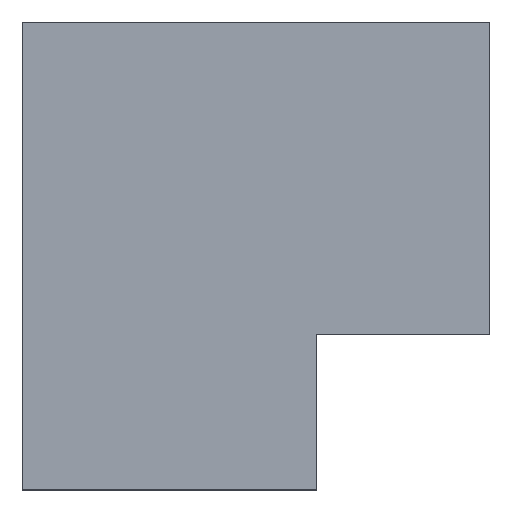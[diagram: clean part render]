
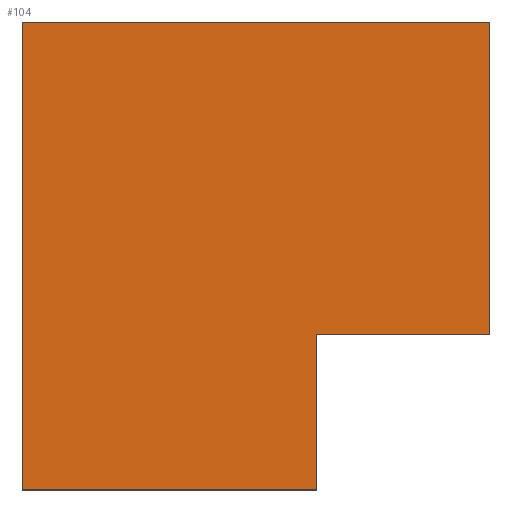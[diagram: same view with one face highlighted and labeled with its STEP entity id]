
A CAD part, top view. The second image highlights one B-rep face of the part: STEP entity #104.
In plain terms, the highlighted planar face has unit normal (0, 0, 1).
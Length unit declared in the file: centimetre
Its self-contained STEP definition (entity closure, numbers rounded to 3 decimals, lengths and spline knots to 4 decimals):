
#2 = CARTESIAN_POINT ( 'NONE',  ( 0., 0., 1000. ) ) ;
#7 = VECTOR ( 'NONE', #449, 100. ) ;
#13 = FACE_OUTER_BOUND ( 'NONE', #613, .T. ) ;
#14 = VERTEX_POINT ( 'NONE', #579 ) ;
#17 = LINE ( 'NONE', #559, #7 ) ;
#33 = EDGE_CURVE ( 'NONE', #14, #549, #617, .T. ) ;
#58 = DIRECTION ( 'NONE',  ( 1., 0., 0. ) ) ;
#91 = DIRECTION ( 'NONE',  ( -1., 0., 0. ) ) ;
#93 = AXIS2_PLACEMENT_3D ( 'NONE', #244, #432, #58 ) ;
#95 = CARTESIAN_POINT ( 'NONE',  ( 1000., 331.9766, 1000. ) ) ;
#104 = ADVANCED_FACE ( 'NONE', ( #13 ), #390, .T. ) ;
#115 = EDGE_CURVE ( 'NONE', #387, #454, #442, .T. ) ;
#121 = DIRECTION ( 'NONE',  ( 0., -1., 0. ) ) ;
#135 = LINE ( 'NONE', #328, #318 ) ;
#180 = ORIENTED_EDGE ( 'NONE', *, *, #115, .T. ) ;
#201 = DIRECTION ( 'NONE',  ( 1., 0., 0. ) ) ;
#209 = CARTESIAN_POINT ( 'NONE',  ( 1000., 1000., 1000. ) ) ;
#222 = EDGE_CURVE ( 'NONE', #315, #549, #457, .T. ) ;
#224 = ORIENTED_EDGE ( 'NONE', *, *, #414, .T. ) ;
#244 = CARTESIAN_POINT ( 'NONE',  ( 0., 0., 1000. ) ) ;
#258 = EDGE_CURVE ( 'NONE', #387, #315, #17, .T. ) ;
#283 = LINE ( 'NONE', #472, #524 ) ;
#285 = VECTOR ( 'NONE', #201, 100. ) ;
#289 = CARTESIAN_POINT ( 'NONE',  ( 629.6918, 0., 1000. ) ) ;
#315 = VERTEX_POINT ( 'NONE', #470 ) ;
#318 = VECTOR ( 'NONE', #91, 100. ) ;
#328 = CARTESIAN_POINT ( 'NONE',  ( 0., 1000., 1000. ) ) ;
#340 = VECTOR ( 'NONE', #121, 100. ) ;
#386 = DIRECTION ( 'NONE',  ( 0., 1., 0. ) ) ;
#387 = VERTEX_POINT ( 'NONE', #95 ) ;
#390 = PLANE ( 'NONE',  #93 ) ;
#400 = ORIENTED_EDGE ( 'NONE', *, *, #33, .T. ) ;
#403 = EDGE_CURVE ( 'NONE', #454, #464, #135, .T. ) ;
#414 = EDGE_CURVE ( 'NONE', #464, #14, #283, .T. ) ;
#425 = DIRECTION ( 'NONE',  ( 0., -1., 0. ) ) ;
#432 = DIRECTION ( 'NONE',  ( 0., 0., 1. ) ) ;
#438 = VECTOR ( 'NONE', #386, 100. ) ;
#442 = LINE ( 'NONE', #209, #438 ) ;
#449 = DIRECTION ( 'NONE',  ( -1., 0., 0. ) ) ;
#454 = VERTEX_POINT ( 'NONE', #574 ) ;
#457 = LINE ( 'NONE', #555, #340 ) ;
#464 = VERTEX_POINT ( 'NONE', #625 ) ;
#470 = CARTESIAN_POINT ( 'NONE',  ( 629.6918, 331.9766, 1000. ) ) ;
#472 = CARTESIAN_POINT ( 'NONE',  ( 0., 1000., 1000. ) ) ;
#497 = ORIENTED_EDGE ( 'NONE', *, *, #258, .F. ) ;
#524 = VECTOR ( 'NONE', #425, 100. ) ;
#533 = ORIENTED_EDGE ( 'NONE', *, *, #403, .T. ) ;
#549 = VERTEX_POINT ( 'NONE', #289 ) ;
#555 = CARTESIAN_POINT ( 'NONE',  ( 629.6918, 0., 1000. ) ) ;
#559 = CARTESIAN_POINT ( 'NONE',  ( 629.6918, 331.9766, 1000. ) ) ;
#574 = CARTESIAN_POINT ( 'NONE',  ( 1000., 1000., 1000. ) ) ;
#579 = CARTESIAN_POINT ( 'NONE',  ( 0., 0., 1000. ) ) ;
#598 = ORIENTED_EDGE ( 'NONE', *, *, #222, .F. ) ;
#613 = EDGE_LOOP ( 'NONE', ( #598, #497, #180, #533, #224, #400 ) ) ;
#617 = LINE ( 'NONE', #2, #285 ) ;
#625 = CARTESIAN_POINT ( 'NONE',  ( 0., 1000., 1000. ) ) ;
